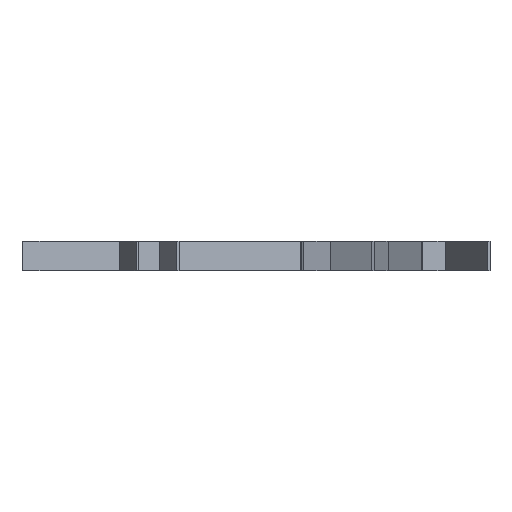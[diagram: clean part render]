
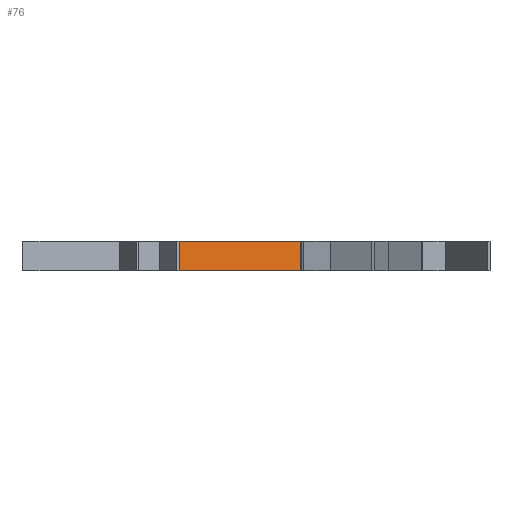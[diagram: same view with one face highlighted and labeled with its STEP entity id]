
A CAD part, left-side view. The second image highlights one B-rep face of the part: STEP entity #76.
In plain terms, the highlighted planar face has unit normal (-0.966, -0.259, 0).
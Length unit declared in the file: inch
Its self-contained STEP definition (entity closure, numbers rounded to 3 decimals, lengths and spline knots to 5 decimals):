
#76=ADVANCED_FACE('',(#246),#2963,.T.);
#246=FACE_OUTER_BOUND('',#416,.T.);
#416=EDGE_LOOP('',(#712,#713,#714,#715));
#712=ORIENTED_EDGE('',*,*,#1718,.T.);
#713=ORIENTED_EDGE('',*,*,#1690,.T.);
#714=ORIENTED_EDGE('',*,*,#1688,.T.);
#715=ORIENTED_EDGE('',*,*,#1691,.F.);
#1688=EDGE_CURVE('',#2664,#2665,#2192,.T.);
#1690=EDGE_CURVE('',#2678,#2664,#2194,.T.);
#1691=EDGE_CURVE('',#2684,#2665,#2195,.T.);
#1718=EDGE_CURVE('',#2684,#2678,#2222,.T.);
#2192=B_SPLINE_CURVE_WITH_KNOTS('',1,(#4129,#4130),.UNSPECIFIED.,.F.,.F.,
(2,2),(0.,6.),.UNSPECIFIED.);
#2194=B_SPLINE_CURVE_WITH_KNOTS('',1,(#4133,#4134),.UNSPECIFIED.,.F.,.F.,
(2,2),(40.39536,72.23603),.UNSPECIFIED.);
#2195=B_SPLINE_CURVE_WITH_KNOTS('',1,(#4135,#4136),.UNSPECIFIED.,.F.,.F.,
(2,2),(40.39536,72.23603),.UNSPECIFIED.);
#2222=B_SPLINE_CURVE_WITH_KNOTS('',1,(#4189,#4190),.UNSPECIFIED.,.F.,.F.,
(2,2),(-6.,0.),.UNSPECIFIED.);
#2664=VERTEX_POINT('',#3665);
#2665=VERTEX_POINT('',#3666);
#2678=VERTEX_POINT('',#3679);
#2684=VERTEX_POINT('',#3685);
#2963=PLANE('',#3196);
#3196=AXIS2_PLACEMENT_3D('',#3486,#3341,$);
#3341=DIRECTION('',(-0.966,-0.259,0.));
#3486=CARTESIAN_POINT('',(-807.23239,-233.98941,128.99971));
#3665=CARTESIAN_POINT('',(-824.41432,-169.86556,128.99971));
#3666=CARTESIAN_POINT('',(-824.41432,-169.86556,122.99971));
#3679=CARTESIAN_POINT('',(-816.74646,-198.48242,128.99971));
#3685=CARTESIAN_POINT('',(-816.74646,-198.48242,122.99971));
#4129=CARTESIAN_POINT('',(-824.41432,-169.86556,128.99971));
#4130=CARTESIAN_POINT('',(-824.41432,-169.86556,122.99971));
#4133=CARTESIAN_POINT('',(-816.74646,-198.48242,128.99971));
#4134=CARTESIAN_POINT('',(-824.41432,-169.86556,128.99971));
#4135=CARTESIAN_POINT('',(-816.74646,-198.48242,122.99971));
#4136=CARTESIAN_POINT('',(-824.41432,-169.86556,122.99971));
#4189=CARTESIAN_POINT('',(-816.74646,-198.48242,122.99971));
#4190=CARTESIAN_POINT('',(-816.74646,-198.48242,128.99971));
